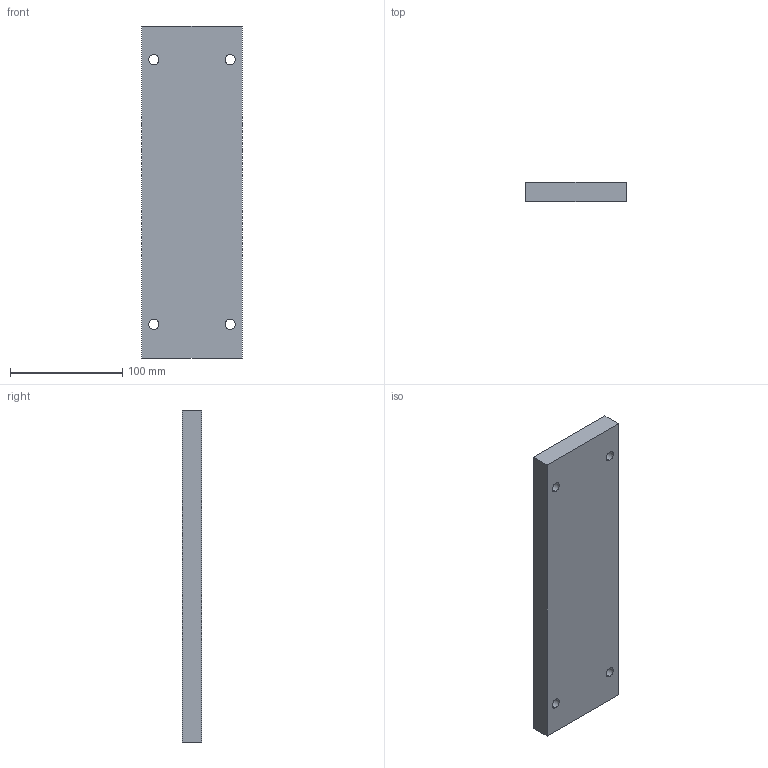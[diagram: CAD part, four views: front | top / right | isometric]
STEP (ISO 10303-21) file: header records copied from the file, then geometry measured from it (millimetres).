
FILE_DESCRIPTION (( 'STEP AP214' ), '1' );
FILE_NAME ('L60_156x296x17.STEP', '2016-08-18T21:51:19', ( '' ), ( '' ), 'SwSTEP 2.0', 'SolidWorks 2014', '' );
FILE_SCHEMA (( 'AUTOMOTIVE_DESIGN' ));
Length unit declared in the file: millimetre
Products named in the file (1): L60_156x296x17
Bounding box: 90 x 17 x 296 mm (x, y, z)
Volume: 444194.1 mm3; surface area: 68837.9 mm2
Topology: 1 solids, 1 shells, 42 faces, 100 edges, 60 vertices
Faces by surface type: cylinder 24, plane 10, cone 8
Entity records: 1222 total; most frequent: DIRECTION 226, CARTESIAN_POINT 195, ORIENTED_EDGE 184, EDGE_CURVE 92, AXIS2_PLACEMENT_3D 91, VERTEX_POINT 60, EDGE_LOOP 58, CIRCLE 48
